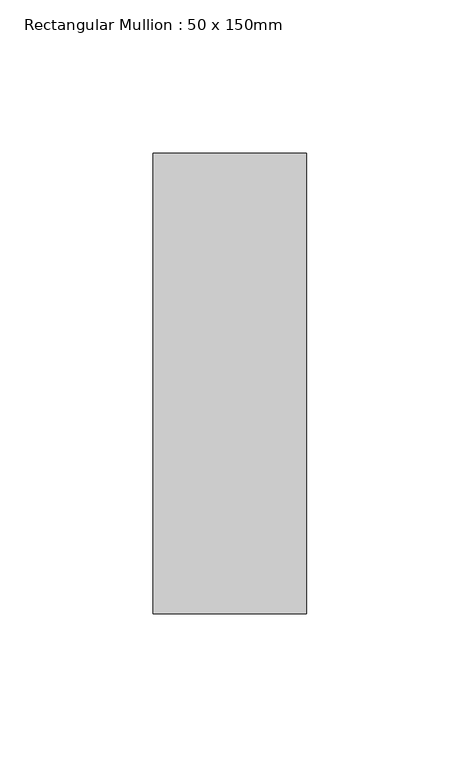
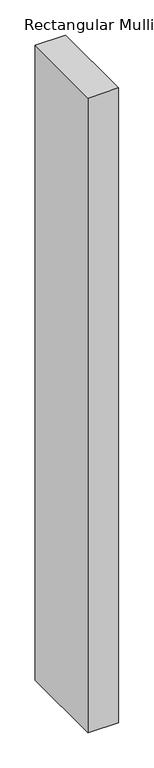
"""IFC4 building model written with IfcOpenShell, lengths in millimetres: member geometry, Rectangular Mullion : 50 x 150mm."""

from ifc_helpers import new_model, si_unit, frame, origin, place, context, project, spatial, polyline, outline, extrude, source, transform, mapped, element, save


def rectangular_mullion_50_x_150mm_3e94a90c(model_context):
    return source(origin(), model_context, "Body", "SweptSolid", [
        extrude(outline(polyline([(25.0, 75.0), (25.0, -75.0), (-25.0, -75.0), (-25.0, 75.0), (25.0, 75.0)])), frame((0.0, 0.0, -1096.975), z_axis=(0.0, 0.0, 1.0), x_axis=(1.0, 0.0, 0.0)), (0.0, 0.0, 1.0), 1096.975),
    ])


if __name__ == "__main__":
    model = new_model("IFC4")
    model_context = context("Model", 3, world=origin())
    ifc_project = project(units=[si_unit("LENGTHUNIT", "METRE", prefix="MILLI")], contexts=[model_context])
    site = spatial("IfcSite", under=ifc_project)
    building = spatial("IfcBuilding", under=site)
    placement = place(None, origin())
    rectangular_mullion_50_x_150mm_shape = rectangular_mullion_50_x_150mm_3e94a90c(model_context)
    element("IfcMember", 1, ObjectType="Rectangular Mullion : 50 x 150mm", at=placement, inside=building, context=model_context, shape_type="MappedRepresentation", body=[
        mapped(rectangular_mullion_50_x_150mm_shape, transform((0.0, 0.0, 0.0), x_axis=(1.0, 0.0, 0.0), y_axis=(0.0, 1.0, 0.0), z_axis=(0.0, 0.0, 1.0))),
    ])
    save(model, "model.ifc")
